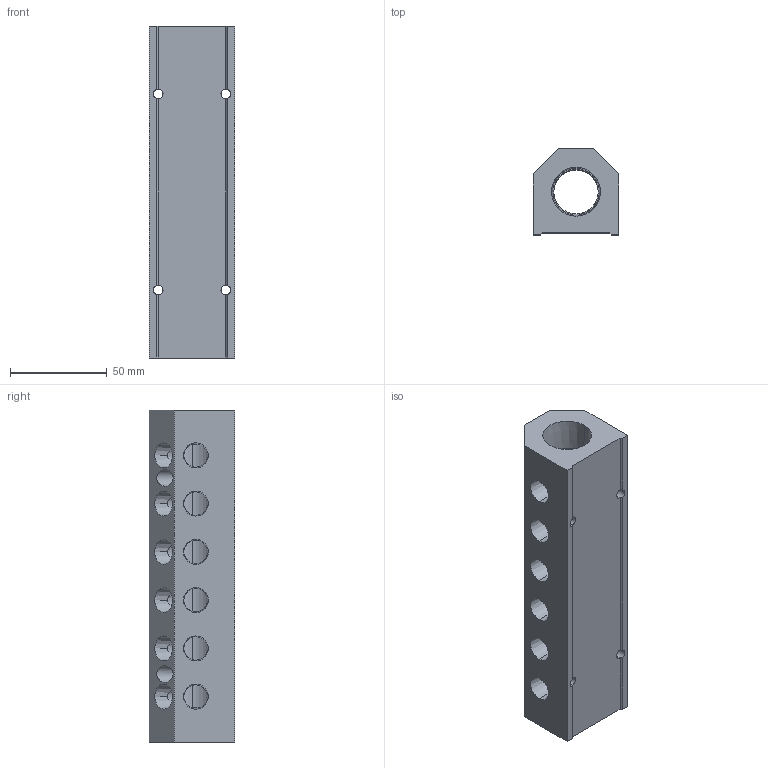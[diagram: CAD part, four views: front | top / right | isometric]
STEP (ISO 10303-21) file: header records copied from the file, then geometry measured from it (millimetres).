
FILE_DESCRIPTION (( 'STEP AP214' ), '1' );
FILE_NAME ('ALM6ABC-N4N12-172R.step', '2022-02-06T14:06:08', ( '' ), ( '' ), 'SwSTEP 2.0', 'SolidWorks 2020', '' );
FILE_SCHEMA (( 'AUTOMOTIVE_DESIGN' ));
Length unit declared in the file: millimetre
Products named in the file (1): ALM6ABC-N4N12-172R
Bounding box: 44.5 x 44.5 x 172 mm (x, y, z)
Volume: 203180.6 mm3; surface area: 49039.6 mm2
Topology: 1 solids, 1 shells, 341 faces, 962 edges, 638 vertices
Faces by surface type: plane 220, bspline 48, cone 47, cylinder 26
Entity records: 18680 total; most frequent: CARTESIAN_POINT 7174, ORIENTED_EDGE 1924, DIRECTION 1418, EDGE_CURVE 962, LINE 654, VECTOR 654, VERTEX_POINT 638, EDGE_LOOP 402
